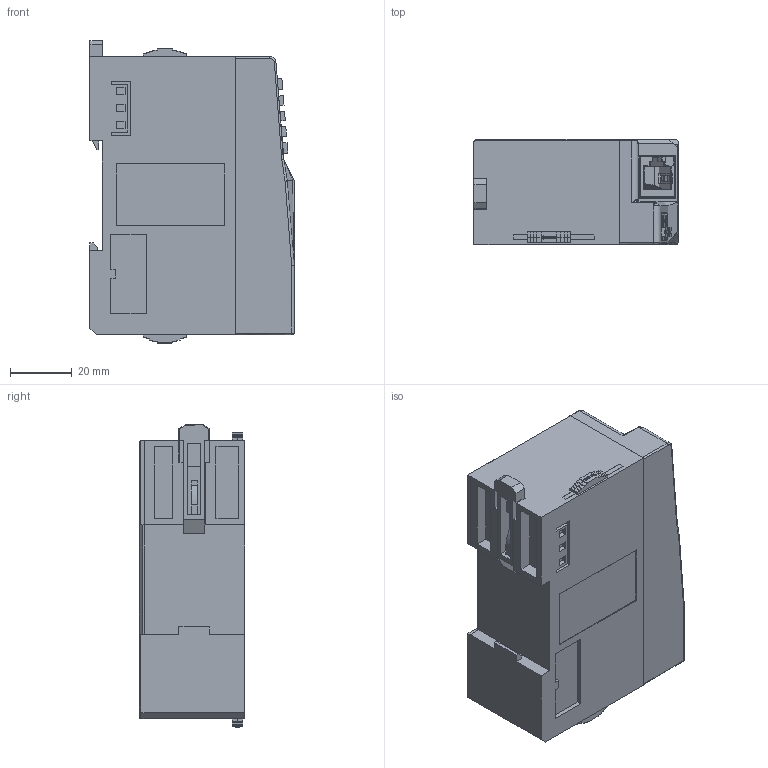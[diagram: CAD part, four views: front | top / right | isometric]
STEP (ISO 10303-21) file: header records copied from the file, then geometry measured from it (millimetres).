
FILE_DESCRIPTION(/* description */ (''),/* implementation_level */ '2;1');
FILE_NAME(/* name */ 'EX-ECPN适配器.stp',/* time_stamp */ '2022-01-13T16:17:40+08:00',/* author */ (''),/* organization */ (''),/* preprocessor_version */ 'ST-DEVELOPER v16',/* originating_system */ 'SIEMENS PLM Software NX 10.0',/* authorisation */ '');
FILE_SCHEMA (('AP203_CONFIGURATION_CONTROLLED_3D_DESIGN_OF_MECHANICAL_PARTS_AND_ASSEMBLIES_MIM_LF { 1 0 10303 403 2 1 2}'));
Products named in the file (1): 73494C981A9Cmj57
Bounding box: 66 x 34 x 97.82 mm (x, y, z)
Volume: 182023.6 mm3; surface area: 44611.2 mm2
Topology: 10 solids, 10 shells, 1899 faces, 5060 edges, 3280 vertices
Faces by surface type: plane 1430, cylinder 282, bspline 93, cone 69, torus 12, sphere 9, extrusion 4
Full cylindrical faces by diameter (mm): 1.2 x5
Entity records: 61056 total; most frequent: CARTESIAN_POINT 13913, ORIENTED_EDGE 10092, DIRECTION 9111, EDGE_CURVE 5046, VECTOR 4119, LINE 4115, VERTEX_POINT 3280, AXIS2_PLACEMENT_3D 2496
